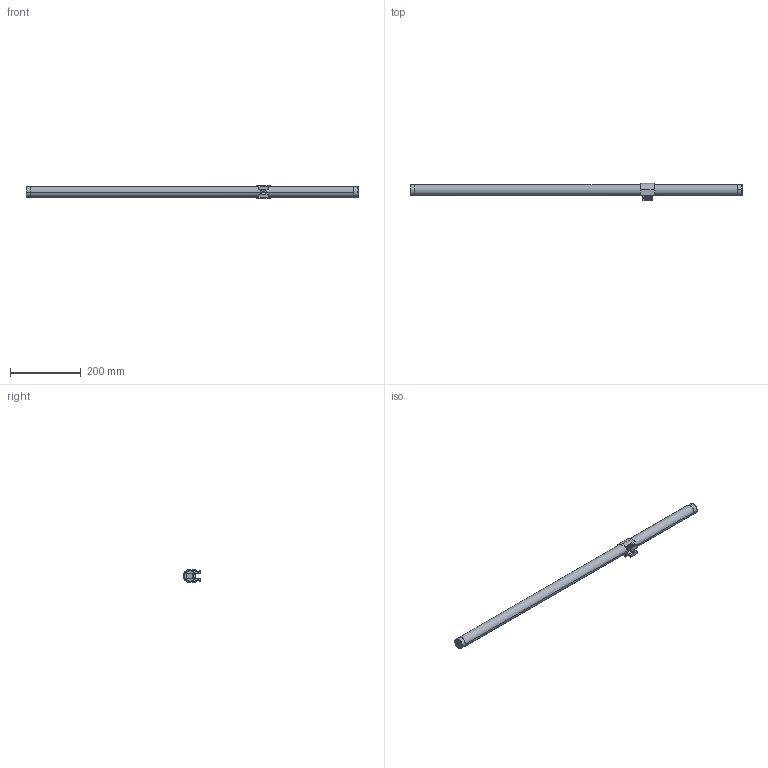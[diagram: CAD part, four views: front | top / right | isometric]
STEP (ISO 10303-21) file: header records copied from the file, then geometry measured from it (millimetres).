
FILE_DESCRIPTION (( 'STEP AP214' ), '1' );
FILE_NAME ('ACTUXXXXXXLA1XX.STEP', '2023-08-29T07:33:59', ( '' ), ( '' ), 'SwSTEP 2.0', 'SolidWorks 2023', '' );
FILE_SCHEMA (( 'AUTOMOTIVE_DESIGN' ));
Length unit declared in the file: millimetre
Products named in the file (5): WSCP2E0048-1400-00; WSCP2E0004-1400-02; WSCP2E0012-1400-01; ACTUXXXXXXLA1XX; WSVBPAR091225XX-00
Assembly tree (4 placements, depth 2):
  ACTUXXXXXXLA1XX
    WSVBPAR091225XX-00
    WSCP2E0004-1400-02
    WSCP2E0012-1400-01
    WSCP2E0048-1400-00
Bounding box: 936 x 48.15 x 36.2 mm (x, y, z)
Volume: 249354 mm3; surface area: 174810.9 mm2
Topology: 4 solids, 4 shells, 1681 faces, 3890 edges, 2096 vertices
Faces by surface type: bspline 780, cylinder 688, plane 203, cone 10
Entity records: 58313 total; most frequent: CARTESIAN_POINT 24546, ORIENTED_EDGE 7536, DIRECTION 6652, EDGE_CURVE 3768, AXIS2_PLACEMENT_3D 2722, VERTEX_POINT 2096, CIRCLE 1814, EDGE_LOOP 1700
